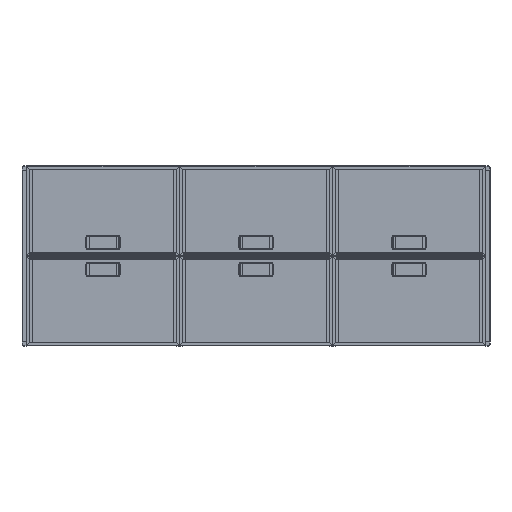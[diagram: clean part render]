
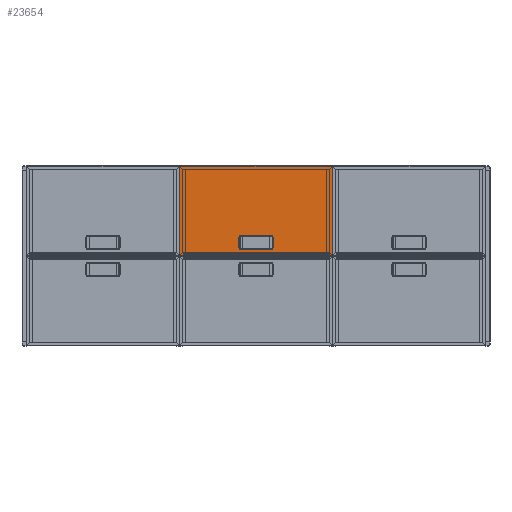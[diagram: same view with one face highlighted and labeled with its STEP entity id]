
A CAD part, top view. The second image highlights one B-rep face of the part: STEP entity #23654.
In plain terms, the highlighted planar face has unit normal (0, 0, 1).
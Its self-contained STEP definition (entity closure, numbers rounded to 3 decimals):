
#23483=CARTESIAN_POINT('',(-679.,-799.,23.));
#23484=VERTEX_POINT('',#23483);
#23491=CARTESIAN_POINT('',(-679.,-1.,23.));
#23492=VERTEX_POINT('',#23491);
#23493=CARTESIAN_POINT('',(-679.,-1.,23.));
#23494=DIRECTION('',(0.,-1.,0.));
#23495=VECTOR('',#23494,798.);
#23496=LINE('',#23493,#23495);
#23497=EDGE_CURVE('',#23492,#23484,#23496,.T.);
#23514=CARTESIAN_POINT('',(679.,-799.,23.));
#23515=VERTEX_POINT('',#23514);
#23522=CARTESIAN_POINT('',(-679.,-799.,23.));
#23523=DIRECTION('',(1.,0.,0.));
#23524=VECTOR('',#23523,1358.);
#23525=LINE('',#23522,#23524);
#23526=EDGE_CURVE('',#23484,#23515,#23525,.T.);
#23538=CARTESIAN_POINT('',(679.,-1.,23.));
#23539=VERTEX_POINT('',#23538);
#23546=CARTESIAN_POINT('',(679.,-799.,23.));
#23547=DIRECTION('',(0.,1.,0.));
#23548=VECTOR('',#23547,798.);
#23549=LINE('',#23546,#23548);
#23550=EDGE_CURVE('',#23515,#23539,#23549,.T.);
#23563=CARTESIAN_POINT('',(679.,-1.,23.));
#23564=DIRECTION('',(-1.,0.,0.));
#23565=VECTOR('',#23564,1358.);
#23566=LINE('',#23563,#23565);
#23567=EDGE_CURVE('',#23539,#23492,#23566,.T.);
#23573=CARTESIAN_POINT('',(0.,-120.,23.));
#23574=DIRECTION('',(1.,0.,0.));
#23575=DIRECTION('',(0.,0.,1.));
#23576=AXIS2_PLACEMENT_3D('',#23573,#23575,#23574);
#23577=PLANE('',#23576);
#23578=ORIENTED_EDGE('',*,*,#23497,.T.);
#23579=ORIENTED_EDGE('',*,*,#23526,.T.);
#23580=ORIENTED_EDGE('',*,*,#23550,.T.);
#23581=ORIENTED_EDGE('',*,*,#23567,.T.);
#23582=EDGE_LOOP('',(#23578,#23579,#23580,#23581));
#23583=FACE_OUTER_BOUND('',#23582,.T.);
#23584=CARTESIAN_POINT('',(-136.,-59.,23.));
#23585=VERTEX_POINT('',#23584);
#23586=CARTESIAN_POINT('',(136.,-59.,23.));
#23587=VERTEX_POINT('',#23586);
#23588=CARTESIAN_POINT('',(-136.,-59.,23.));
#23589=DIRECTION('',(1.,0.,0.));
#23590=VECTOR('',#23589,272.);
#23591=LINE('',#23588,#23590);
#23592=EDGE_CURVE('',#23585,#23587,#23591,.T.);
#23593=ORIENTED_EDGE('E504',*,*,#23592,.T.);
#23594=CARTESIAN_POINT('',(151.25,-74.25,23.));
#23595=VERTEX_POINT('',#23594);
#23596=CARTESIAN_POINT('',(136.,-74.25,23.));
#23597=DIRECTION('',(0.,1.,0.));
#23598=DIRECTION('',(0.,-0.,-1.));
#23599=AXIS2_PLACEMENT_3D('',#23596,#23598,#23597);
#23600=CIRCLE('',#23599,15.25);
#23601=EDGE_CURVE('',#23587,#23595,#23600,.T.);
#23602=ORIENTED_EDGE('E506',*,*,#23601,.T.);
#23603=CARTESIAN_POINT('',(151.25,-166.25,23.));
#23604=VERTEX_POINT('',#23603);
#23605=CARTESIAN_POINT('',(151.25,-74.25,23.));
#23606=DIRECTION('',(0.,-1.,0.));
#23607=VECTOR('',#23606,92.);
#23608=LINE('',#23605,#23607);
#23609=EDGE_CURVE('',#23595,#23604,#23608,.T.);
#23610=ORIENTED_EDGE('E508',*,*,#23609,.T.);
#23611=CARTESIAN_POINT('',(136.,-181.5,23.));
#23612=VERTEX_POINT('',#23611);
#23613=CARTESIAN_POINT('',(136.,-166.25,23.));
#23614=DIRECTION('',(1.,0.,0.));
#23615=DIRECTION('',(0.,0.,-1.));
#23616=AXIS2_PLACEMENT_3D('',#23613,#23615,#23614);
#23617=CIRCLE('',#23616,15.25);
#23618=EDGE_CURVE('',#23604,#23612,#23617,.T.);
#23619=ORIENTED_EDGE('E510',*,*,#23618,.T.);
#23620=CARTESIAN_POINT('',(-136.,-181.5,23.));
#23621=VERTEX_POINT('',#23620);
#23622=CARTESIAN_POINT('',(136.,-181.5,23.));
#23623=DIRECTION('',(-1.,0.,0.));
#23624=VECTOR('',#23623,272.);
#23625=LINE('',#23622,#23624);
#23626=EDGE_CURVE('',#23612,#23621,#23625,.T.);
#23627=ORIENTED_EDGE('E512',*,*,#23626,.T.);
#23628=CARTESIAN_POINT('',(-151.25,-166.25,23.));
#23629=VERTEX_POINT('',#23628);
#23630=CARTESIAN_POINT('',(-136.,-166.25,23.));
#23631=DIRECTION('',(0.,-1.,0.));
#23632=DIRECTION('',(0.,0.,-1.));
#23633=AXIS2_PLACEMENT_3D('',#23630,#23632,#23631);
#23634=CIRCLE('',#23633,15.25);
#23635=EDGE_CURVE('',#23621,#23629,#23634,.T.);
#23636=ORIENTED_EDGE('E514',*,*,#23635,.T.);
#23637=CARTESIAN_POINT('',(-151.25,-74.25,23.));
#23638=VERTEX_POINT('',#23637);
#23639=CARTESIAN_POINT('',(-151.25,-166.25,23.));
#23640=DIRECTION('',(0.,1.,0.));
#23641=VECTOR('',#23640,92.);
#23642=LINE('',#23639,#23641);
#23643=EDGE_CURVE('',#23629,#23638,#23642,.T.);
#23644=ORIENTED_EDGE('E516',*,*,#23643,.T.);
#23645=CARTESIAN_POINT('',(-136.,-74.25,23.));
#23646=DIRECTION('',(-1.,0.,0.));
#23647=DIRECTION('',(0.,0.,-1.));
#23648=AXIS2_PLACEMENT_3D('',#23645,#23647,#23646);
#23649=CIRCLE('',#23648,15.25);
#23650=EDGE_CURVE('',#23638,#23585,#23649,.T.);
#23651=ORIENTED_EDGE('E518',*,*,#23650,.T.);
#23652=EDGE_LOOP('',(#23593,#23602,#23610,#23619,#23627,#23636,#23644,#23651));
#23653=FACE_BOUND('',#23652,.T.);
#23654=ADVANCED_FACE('F52',(#23583,#23653),#23577,.T.);
